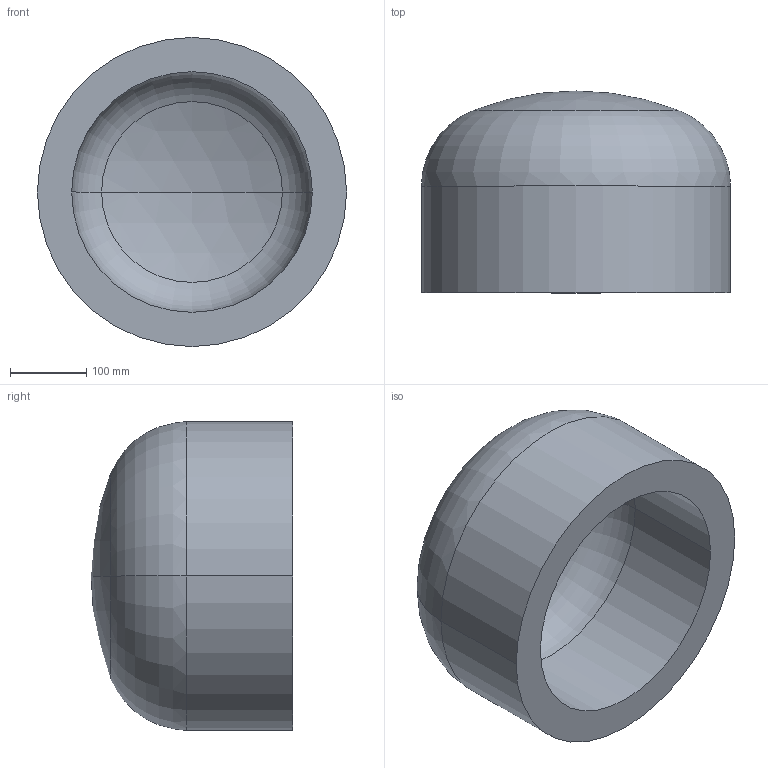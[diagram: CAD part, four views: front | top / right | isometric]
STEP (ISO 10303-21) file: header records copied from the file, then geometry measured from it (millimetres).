
FILE_DESCRIPTION (( 'STEP AP203' ), '1' );
FILE_NAME ('DIN 28013 Korbbogenform_-_Boden DIN 28013 - 406,4 x 140 - I - s=45.step', '2016-07-01T07:51:14', ( '' ), ( '' ), 'SwSTEP 2.0', 'SolidWorks 2013', '' );
FILE_SCHEMA (( 'CONFIG_CONTROL_DESIGN' ));
Length unit declared in the file: millimetre
Products named in the file (1): DIN 28013 Korbbogenform_-_Boden DIN 28013 - 406,4 x 140 - I - s=45
Bounding box: 406.4 x 265.23 x 406.4 mm (x, y, z)
Volume: 14195192.4 mm3; surface area: 686230.3 mm2
Topology: 1 solids, 1 shells, 13 faces, 24 edges, 14 vertices
Faces by surface type: torus 4, cylinder 4, sphere 4, plane 1
Entity records: 407 total; most frequent: DIRECTION 72, CARTESIAN_POINT 52, ORIENTED_EDGE 48, AXIS2_PLACEMENT_3D 34, EDGE_CURVE 24, CIRCLE 20, EDGE_LOOP 14, VERTEX_POINT 14
